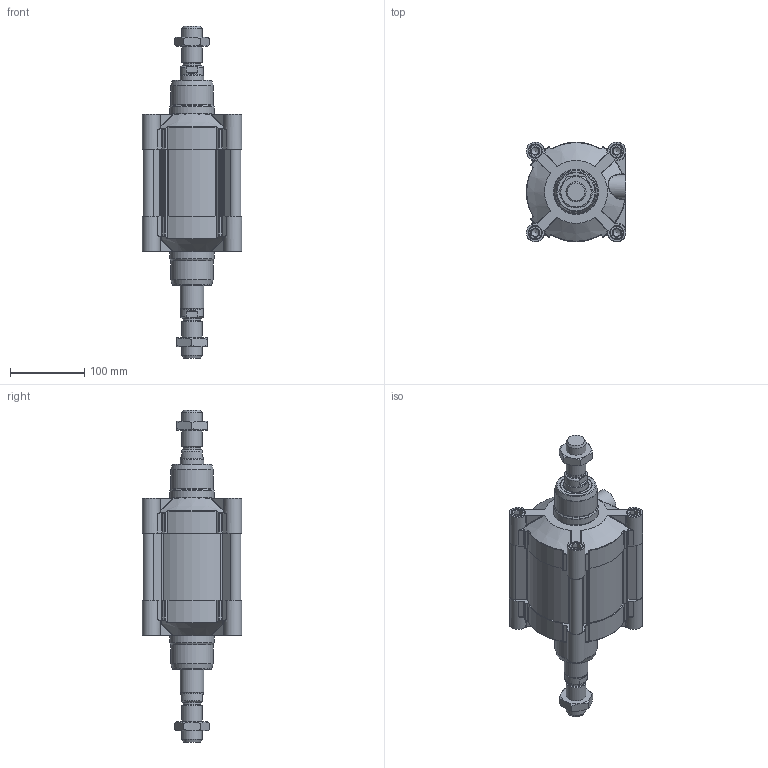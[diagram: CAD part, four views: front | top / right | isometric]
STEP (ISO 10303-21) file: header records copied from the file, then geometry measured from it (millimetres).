
FILE_DESCRIPTION(/* description */ ('Unknown'),/* implementation_level */ '2;1');
FILE_NAME(/* name */ 'HBF 125_25',/* time_stamp */ '2024-08-08T07:46:00+02:00',/* author */ ('Unknown'),/* organization */ ('Unknown'),/* preprocessor_version */ 'ST-DEVELOPER v16.7',/* originating_system */ 'Solid Edge',/* authorisation */ 'Unknown');
FILE_SCHEMA (('AUTOMOTIVE_DESIGN {1 0 10303 214 3 1 1}'));
Length unit declared in the file: millimetre
Products named in the file (6): HBF 125_25; Profilrohr 125_25; Kit; Kolbenstange_1_125_25; Mutter; Kolbenstange_2_125_25
Assembly tree (7 placements, depth 2):
  HBF 125_25
    Profilrohr 125_25
    Kit  x2
    Kolbenstange_1_125_25
    Mutter  x2
    Kolbenstange_2_125_25
Bounding box: 134 x 134 x 448 mm (x, y, z)
Volume: 2590936 mm3; surface area: 488226 mm2
Topology: 7 solids, 21 shells, 1453 faces, 3621 edges, 2238 vertices
Faces by surface type: cylinder 499, plane 462, cone 158, torus 134, sphere 108, bspline 92
Full cylindrical faces by diameter (mm): 10.106 x16, 12 x10, 12.3 x8, 17 x2, 18 x8, 18.3 x8, 18.62 x2, 18.631 x2, 23.8 x2, 24.835 x2, 27 x2, 31 x2, 32 x2, 32.5 x8, 32.8 x2, 32.962 x2, 38 x2, 42 x4, 57 x2, 60 x2, 125 x3
Entity records: 31983 total; most frequent: CARTESIAN_POINT 8185, ORIENTED_EDGE 4048, DIRECTION 3836, EDGE_CURVE 2024, AXIS2_PLACEMENT_3D 1543, VERTEX_POINT 1305, FACE_BOUND 939, EDGE_LOOP 935
